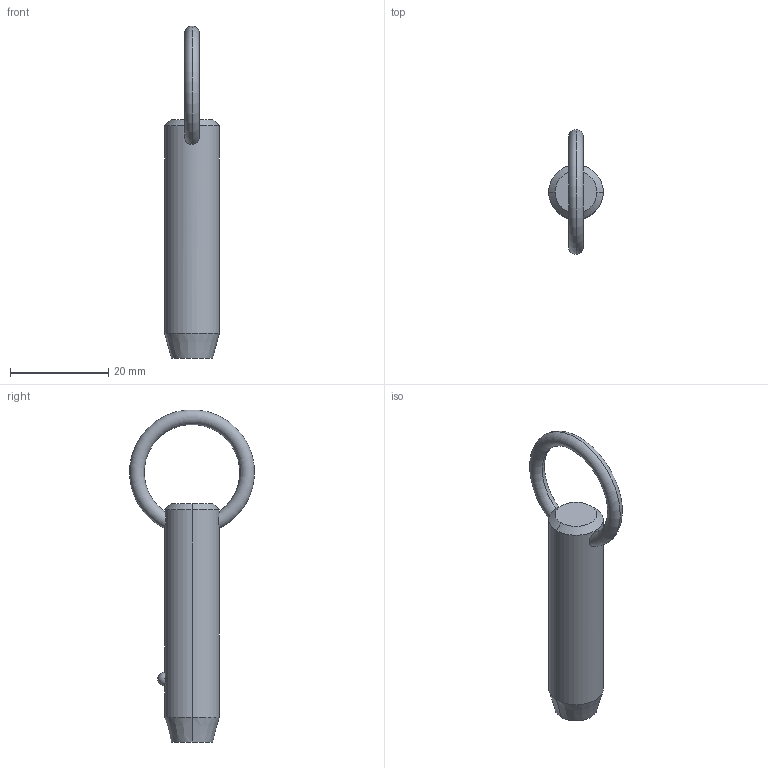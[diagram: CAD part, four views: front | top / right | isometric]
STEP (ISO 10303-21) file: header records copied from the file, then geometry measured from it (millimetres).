
FILE_DESCRIPTION (( 'STEP AP203' ), '1' );
FILE_NAME ('P1250.050-110.step', '2019-07-29T20:29:08', ( '' ), ( '' ), 'SwSTEP 2.0', 'SolidWorks 2017', '' );
FILE_SCHEMA (( 'CONFIG_CONTROL_DESIGN' ));
Length unit declared in the file: millimetre
Products named in the file (1): P1250.050-110
Bounding box: 11.1 x 25.32 x 67.45 mm (x, y, z)
Volume: 4976 mm3; surface area: 2343.9 mm2
Topology: 1 solids, 1 shells, 12 faces, 28 edges, 17 vertices
Faces by surface type: cone 4, torus 2, sphere 2, cylinder 2, plane 2
Entity records: 523 total; most frequent: CARTESIAN_POINT 190, DIRECTION 56, ORIENTED_EDGE 48, AXIS2_PLACEMENT_3D 25, EDGE_CURVE 24, EDGE_LOOP 15, VERTEX_POINT 15, FACE_OUTER_BOUND 12
